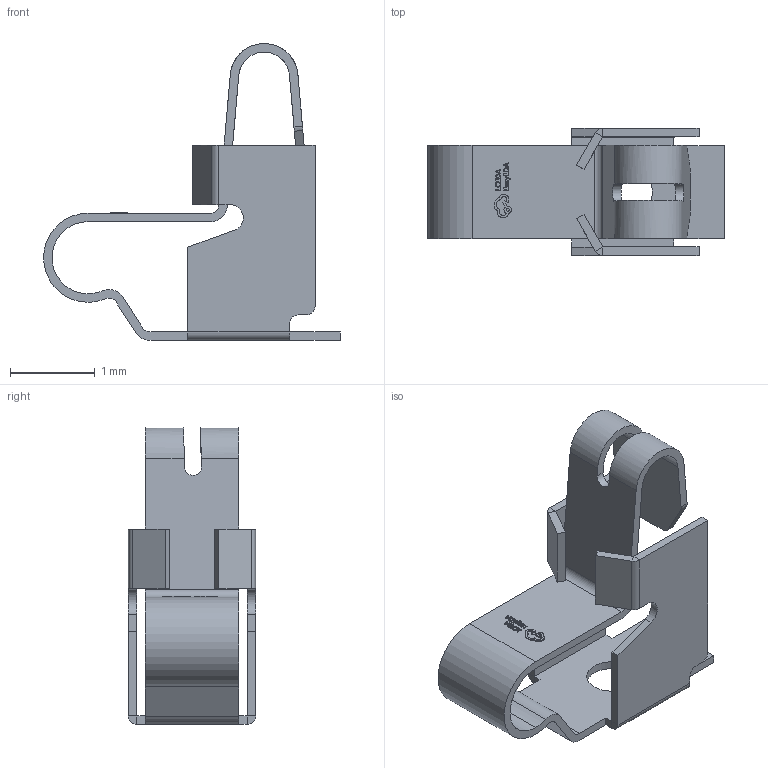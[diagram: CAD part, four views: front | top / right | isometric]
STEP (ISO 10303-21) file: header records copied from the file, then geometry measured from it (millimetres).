
FILE_DESCRIPTION (( 'STEP AP214' ), '1' );
FILE_NAME ('BAT-SMD_ECT818000379.step', '2022-06-16T10:59:18', ( '' ), ( '' ), 'SwSTEP 2.0', 'SolidWorks 2020', '' );
FILE_SCHEMA (( 'AUTOMOTIVE_DESIGN' ));
Length unit declared in the file: millimetre
Products named in the file (1): BAT-SMD_ECT818000379
Bounding box: 3.5 x 1.5 x 3.5 mm (x, y, z)
Volume: 1.7 mm3; surface area: 38.1 mm2
Topology: 1 solids, 1 shells, 312 faces, 855 edges, 562 vertices
Faces by surface type: plane 182, bspline 98, cylinder 32
Entity records: 13791 total; most frequent: CARTESIAN_POINT 3054, ORIENTED_EDGE 1710, DIRECTION 1137, EDGE_CURVE 855, VECTOR 591, LINE 591, VERTEX_POINT 562, EDGE_LOOP 333
